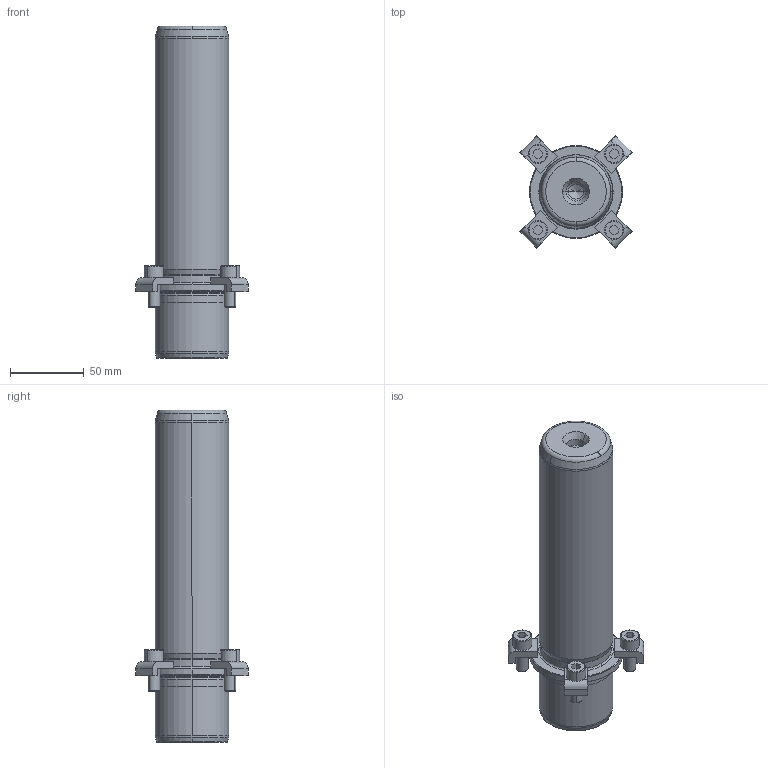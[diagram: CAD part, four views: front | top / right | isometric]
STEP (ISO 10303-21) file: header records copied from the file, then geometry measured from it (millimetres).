
FILE_DESCRIPTION((''),'2;1');
FILE_NAME('P21_050_180.stp','2008-12-23T13:43:24',(''),(''),'Mechanical Desktop 2009','Mechanical Desktop 2009',', , ');
FILE_SCHEMA(('CONFIG_CONTROL_DESIGN'));
Length unit declared in the file: millimetre
Products named in the file (2): Product; blmdl1
Assembly tree (1 placements, depth 2):
  Product
    blmdl1
Bounding box: 76.01 x 76.01 x 225 mm (x, y, z)
Volume: 449955.9 mm3; surface area: 52711.7 mm2
Topology: 9 solids, 9 shells, 195 faces, 477 edges, 309 vertices
Faces by surface type: plane 77, cylinder 52, cone 34, torus 16, bspline 16
Entity records: 6547 total; most frequent: CARTESIAN_POINT 1683, DIRECTION 1078, ORIENTED_EDGE 946, EDGE_CURVE 473, AXIS2_PLACEMENT_3D 424, VERTEX_POINT 309, CIRCLE 243, VECTOR 230
